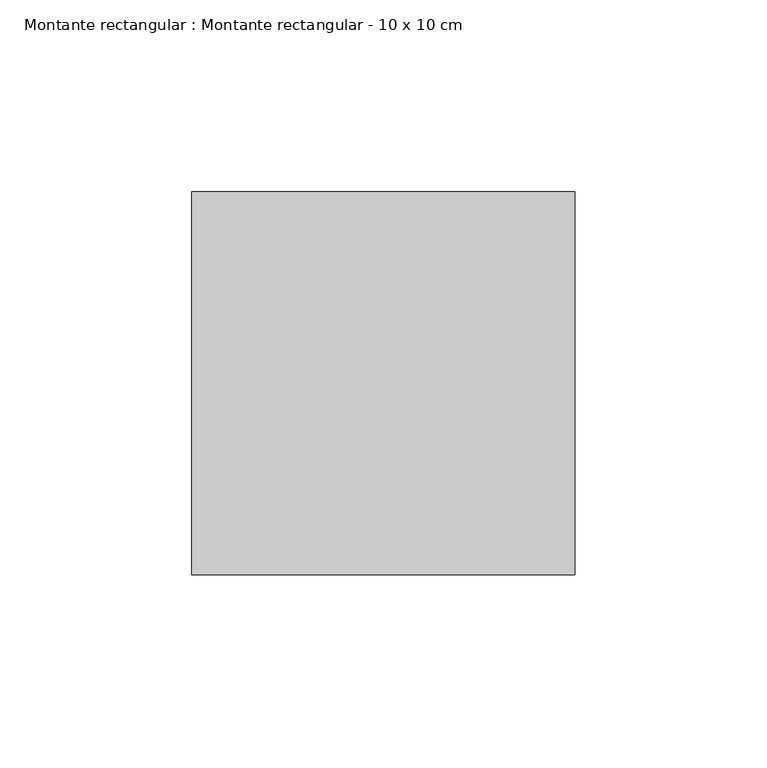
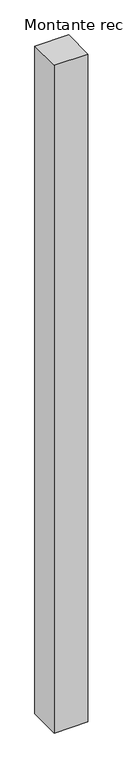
"""IFC4 building model written with IfcOpenShell, lengths in millimetres: member geometry, Montante rectangular : Montante rectangular - 10 x 10 cm."""

from ifc_helpers import new_model, si_unit, frame, origin, place, context, project, spatial, polyline, outline, extrude, source, transform, mapped, element, save


def montante_rectangular_montante_rectangular_10_x_10_cm_4ad2c390(model_context):
    return source(origin(), model_context, "Body", "SweptSolid", [
        extrude(outline(polyline([(0.0, -50.0), (-100.0, -50.0), (-100.0, 50.0), (0.0, 50.0), (0.0, -50.0)])), frame((0.0, 0.0, -2100.0), z_axis=(0.0, 0.0, 1.0), x_axis=(1.0, 0.0, 0.0)), (0.0, 0.0, 1.0), 2100.0),
    ])


if __name__ == "__main__":
    model = new_model("IFC4")
    model_context = context("Model", 3, world=origin())
    ifc_project = project(units=[si_unit("LENGTHUNIT", "METRE", prefix="MILLI")], contexts=[model_context])
    site = spatial("IfcSite", under=ifc_project)
    building = spatial("IfcBuilding", under=site)
    placement = place(None, origin())
    montante_rectangular_montante_rectangular_10_x_10_cm_shape = montante_rectangular_montante_rectangular_10_x_10_cm_4ad2c390(model_context)
    element("IfcMember", 1, ObjectType="Montante rectangular : Montante rectangular - 10 x 10 cm", at=placement, inside=building, context=model_context, shape_type="MappedRepresentation", body=[
        mapped(montante_rectangular_montante_rectangular_10_x_10_cm_shape, transform((0.0, 0.0, 0.0), x_axis=(1.0, 0.0, 0.0), y_axis=(0.0, 1.0, 0.0), z_axis=(0.0, 0.0, 1.0))),
    ])
    save(model, "model.ifc")
